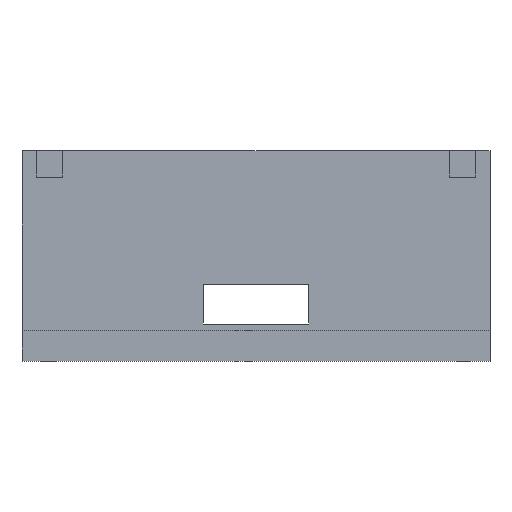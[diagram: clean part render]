
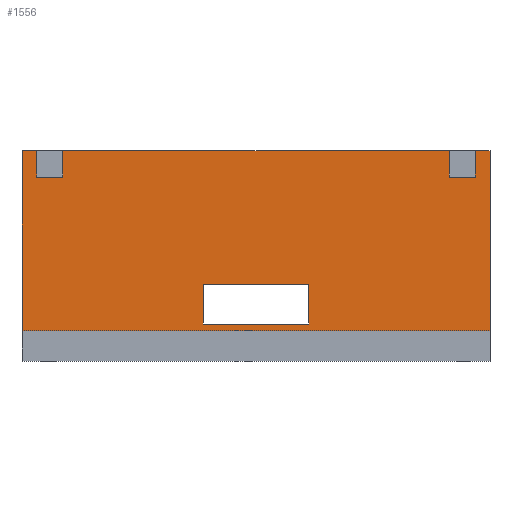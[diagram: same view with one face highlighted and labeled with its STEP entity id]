
A CAD part, front view. The second image highlights one B-rep face of the part: STEP entity #1556.
In plain terms, the highlighted planar face has unit normal (0, -1, 0).
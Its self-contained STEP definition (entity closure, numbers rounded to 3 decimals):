
#12=DIRECTION('',(1.0,0.0,0.0));
#20=DIRECTION('',(-1.0,0.0,0.0));
#66=DIRECTION('',(-1.0,0.,0.0));
#67=VECTOR('',#66,6.667);
#68=CARTESIAN_POINT('',(106.667,97.,96.));
#69=LINE('',#68,#67);
#70=CARTESIAN_POINT('',(100.0,97.,96.));
#71=VERTEX_POINT('',#70);
#72=VERTEX_POINT('',#68);
#73=EDGE_CURVE('',#72,#71,#69,.T.);
#91=CARTESIAN_POINT('',(88.,97.,96.));
#92=VERTEX_POINT('',#91);
#95=DIRECTION('',(1.0,0.,0.0));
#96=VECTOR('',#95,176.0);
#97=CARTESIAN_POINT('',(-88.0,97.,96.));
#98=LINE('',#97,#96);
#99=VERTEX_POINT('',#97);
#100=EDGE_CURVE('',#99,#92,#98,.T.);
#115=CARTESIAN_POINT('',(-100.0,97.,96.));
#116=VERTEX_POINT('',#115);
#119=VECTOR('',#20,6.667);
#120=LINE('',#115,#119);
#121=CARTESIAN_POINT('',(-106.667,97.,96.));
#122=VERTEX_POINT('',#121);
#123=EDGE_CURVE('',#116,#122,#120,.T.);
#175=CARTESIAN_POINT('',(88.,97.,84.));
#179=VERTEX_POINT('',#175);
#190=CARTESIAN_POINT('',(100.0,97.0,84.));
#191=VERTEX_POINT('',#190);
#194=DIRECTION('',(-1.0,0.,0.0));
#195=VECTOR('',#194,12.);
#196=LINE('',#190,#195);
#197=EDGE_CURVE('',#191,#179,#196,.T.);
#228=CARTESIAN_POINT('',(-100.0,97.,84.));
#232=VERTEX_POINT('',#228);
#241=CARTESIAN_POINT('',(-88.0,97.0,84.));
#242=VERTEX_POINT('',#241);
#245=DIRECTION('',(-1.0,0.,0.0));
#246=VECTOR('',#245,12.0);
#247=LINE('',#241,#246);
#248=EDGE_CURVE('',#242,#232,#247,.T.);
#269=CARTESIAN_POINT('',(-24.,97.,35.));
#270=VERTEX_POINT('',#269);
#273=DIRECTION('',(1.0,0.,0.0));
#274=VECTOR('',#273,48.);
#275=LINE('',#269,#274);
#276=CARTESIAN_POINT('',(24.0,97.,35.));
#277=VERTEX_POINT('',#276);
#278=EDGE_CURVE('',#270,#277,#275,.T.);
#296=CARTESIAN_POINT('',(24.0,97.,17.));
#297=VERTEX_POINT('',#296);
#301=DIRECTION('',(-1.0,0.,0.0));
#302=VECTOR('',#301,48.);
#303=LINE('',#296,#302);
#304=CARTESIAN_POINT('',(-24.,97.,17.));
#305=VERTEX_POINT('',#304);
#306=EDGE_CURVE('',#297,#305,#303,.T.);
#628=CARTESIAN_POINT('',(-106.667,97.0,4.));
#629=VERTEX_POINT('',#628);
#632=DIRECTION('',(1.0,0.,0.0));
#633=VECTOR('',#632,213.333);
#634=LINE('',#628,#633);
#635=CARTESIAN_POINT('',(106.667,97.,4.));
#636=VERTEX_POINT('',#635);
#637=EDGE_CURVE('',#629,#636,#634,.T.);
#1367=DIRECTION('',(0.0,0.,1.0));
#1368=VECTOR('',#1367,12.);
#1403=DIRECTION('',(0.0,0.,-1.0));
#1404=VECTOR('',#1403,12.);
#1405=LINE('',#70,#1404);
#1406=EDGE_CURVE('',#71,#191,#1405,.T.);
#1412=DIRECTION('',(0.0,-1.0,0.0));
#1428=LINE('',#175,#1368);
#1429=EDGE_CURVE('',#179,#92,#1428,.T.);
#1444=LINE('',#97,#1404);
#1445=EDGE_CURVE('',#99,#242,#1444,.T.);
#1465=LINE('',#228,#1368);
#1466=EDGE_CURVE('',#232,#116,#1465,.T.);
#1479=DIRECTION('',(0.0,0.,1.0));
#1480=VECTOR('',#1479,18.);
#1481=LINE('',#304,#1480);
#1482=EDGE_CURVE('',#305,#270,#1481,.T.);
#1501=LINE('',#296,#1480);
#1502=EDGE_CURVE('',#297,#277,#1501,.T.);
#1526=AXIS2_PLACEMENT_3D('',#628,#1412,#12);
#1527=PLANE('',#1526);
#1528=ORIENTED_EDGE('',*,*,#1482,.T.);
#1529=ORIENTED_EDGE('',*,*,#306,.T.);
#1530=ORIENTED_EDGE('',*,*,#1502,.F.);
#1531=ORIENTED_EDGE('',*,*,#278,.T.);
#1532=EDGE_LOOP('',(#1531,#1530,#1529,#1528));
#1533=FACE_BOUND('',#1532,.T.);
#1534=ORIENTED_EDGE('',*,*,#1429,.T.);
#1535=ORIENTED_EDGE('',*,*,#197,.T.);
#1536=ORIENTED_EDGE('',*,*,#1406,.T.);
#1537=ORIENTED_EDGE('',*,*,#73,.T.);
#1538=DIRECTION('',(0.0,0.,-1.0));
#1539=VECTOR('',#1538,92.);
#1540=LINE('',#68,#1539);
#1541=EDGE_CURVE('',#72,#636,#1540,.T.);
#1542=ORIENTED_EDGE('',*,*,#1541,.F.);
#1543=ORIENTED_EDGE('',*,*,#637,.T.);
#1544=DIRECTION('',(0.0,0.,1.0));
#1545=VECTOR('',#1544,92.);
#1546=LINE('',#628,#1545);
#1547=EDGE_CURVE('',#629,#122,#1546,.T.);
#1548=ORIENTED_EDGE('',*,*,#1547,.F.);
#1549=ORIENTED_EDGE('',*,*,#123,.T.);
#1550=ORIENTED_EDGE('',*,*,#1466,.T.);
#1551=ORIENTED_EDGE('',*,*,#248,.T.);
#1552=ORIENTED_EDGE('',*,*,#1445,.T.);
#1553=ORIENTED_EDGE('',*,*,#100,.F.);
#1554=EDGE_LOOP('',(#1553,#1552,#1551,#1550,#1549,#1548,#1543,#1542,#1537,#1536,#1535,#1534));
#1555=FACE_BOUND('',#1554,.T.);
#1556=ADVANCED_FACE('',(#1555,#1533),#1527,.T.);
